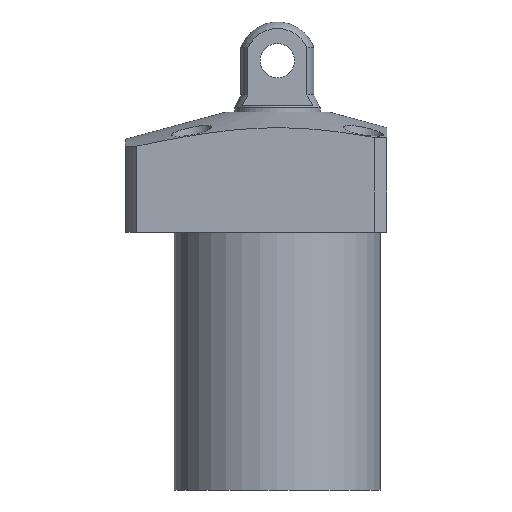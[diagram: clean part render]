
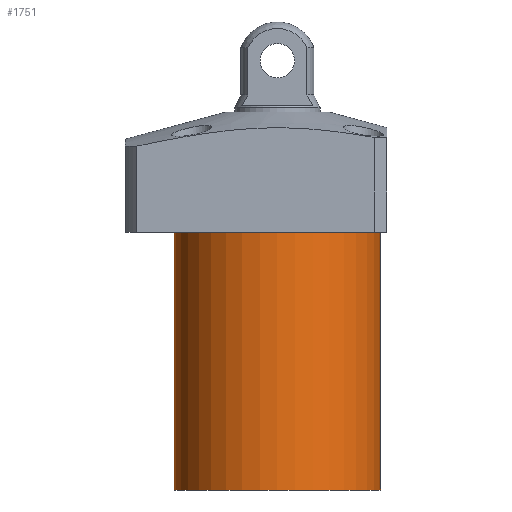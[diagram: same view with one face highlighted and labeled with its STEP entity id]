
A CAD part, front view. The second image highlights one B-rep face of the part: STEP entity #1751.
In plain terms, the highlighted cylindrical face has radius 24 mm (diameter 48 mm), a partial arc.
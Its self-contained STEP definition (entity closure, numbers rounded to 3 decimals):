
#36 = DIRECTION ( 'NONE',  ( 0., 0., -1. ) ) ;
#152 = VERTEX_POINT ( 'NONE', #1460 ) ;
#263 = EDGE_CURVE ( 'NONE', #716, #152, #2117, .T. ) ;
#281 = DIRECTION ( 'NONE',  ( 1., 0., 0. ) ) ;
#375 = DIRECTION ( 'NONE',  ( -1., 0., 0. ) ) ;
#414 = EDGE_CURVE ( 'NONE', #1678, #500, #2222, .T. ) ;
#495 = EDGE_LOOP ( 'NONE', ( #1151, #945, #657, #1216 ) ) ;
#500 = VERTEX_POINT ( 'NONE', #1271 ) ;
#523 = LINE ( 'NONE', #1368, #625 ) ;
#593 = CARTESIAN_POINT ( 'NONE',  ( 24., 0., -74. ) ) ;
#625 = VECTOR ( 'NONE', #1557, 1000. ) ;
#654 = DIRECTION ( 'NONE',  ( 0., 0., 1. ) ) ;
#657 = ORIENTED_EDGE ( 'NONE', *, *, #1656, .T. ) ;
#663 = AXIS2_PLACEMENT_3D ( 'NONE', #1482, #1833, #375 ) ;
#716 = VERTEX_POINT ( 'NONE', #593 ) ;
#929 = VECTOR ( 'NONE', #654, 1000. ) ;
#945 = ORIENTED_EDGE ( 'NONE', *, *, #263, .F. ) ;
#1124 = CARTESIAN_POINT ( 'NONE',  ( 0., 0., -14. ) ) ;
#1151 = ORIENTED_EDGE ( 'NONE', *, *, #2291, .F. ) ;
#1216 = ORIENTED_EDGE ( 'NONE', *, *, #414, .T. ) ;
#1229 = CARTESIAN_POINT ( 'NONE',  ( -24., 0., -74. ) ) ;
#1264 = CYLINDRICAL_SURFACE ( 'NONE', #1408, 24. ) ;
#1271 = CARTESIAN_POINT ( 'NONE',  ( -24., 0., -14. ) ) ;
#1368 = CARTESIAN_POINT ( 'NONE',  ( 24., 0., -74. ) ) ;
#1377 = DIRECTION ( 'NONE',  ( 0., 0., 1. ) ) ;
#1408 = AXIS2_PLACEMENT_3D ( 'NONE', #2112, #1377, #281 ) ;
#1416 = FACE_OUTER_BOUND ( 'NONE', #495, .T. ) ;
#1460 = CARTESIAN_POINT ( 'NONE',  ( -24., 0., -74. ) ) ;
#1482 = CARTESIAN_POINT ( 'NONE',  ( 0., 0., -74. ) ) ;
#1557 = DIRECTION ( 'NONE',  ( 0., 0., 1. ) ) ;
#1656 = EDGE_CURVE ( 'NONE', #716, #1678, #523, .T. ) ;
#1678 = VERTEX_POINT ( 'NONE', #2101 ) ;
#1751 = ADVANCED_FACE ( 'NONE', ( #1416 ), #1264, .T. ) ;
#1833 = DIRECTION ( 'NONE',  ( 0., 0., -1. ) ) ;
#1936 = LINE ( 'NONE', #1229, #929 ) ;
#2049 = DIRECTION ( 'NONE',  ( 1., 0., 0. ) ) ;
#2101 = CARTESIAN_POINT ( 'NONE',  ( 24., 0., -14. ) ) ;
#2112 = CARTESIAN_POINT ( 'NONE',  ( 0., 0., -74. ) ) ;
#2117 = CIRCLE ( 'NONE', #663, 24. ) ;
#2222 = CIRCLE ( 'NONE', #2342, 24. ) ;
#2291 = EDGE_CURVE ( 'NONE', #152, #500, #1936, .T. ) ;
#2342 = AXIS2_PLACEMENT_3D ( 'NONE', #1124, #36, #2049 ) ;
